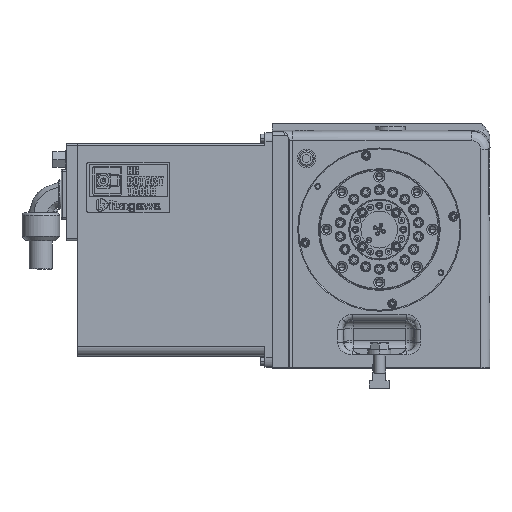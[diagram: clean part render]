
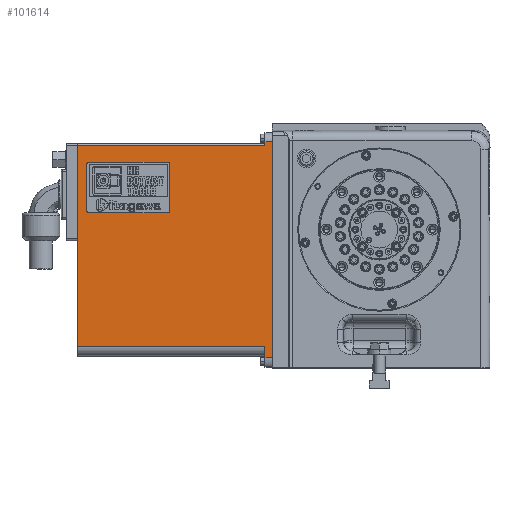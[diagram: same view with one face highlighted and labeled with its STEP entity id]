
A CAD part, top view. The second image highlights one B-rep face of the part: STEP entity #101614.
In plain terms, the highlighted planar face has unit normal (0, 0, 1).
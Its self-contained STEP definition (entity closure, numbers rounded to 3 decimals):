
#827 = ORIENTED_EDGE ( 'NONE', *, *, #33019, .F. ) ;
#987 = CARTESIAN_POINT ( 'NONE',  ( -211., 240., 0. ) ) ;
#4825 = EDGE_CURVE ( 'NONE', #74073, #89592, #15737, .T. ) ;
#5794 = VECTOR ( 'NONE', #50506, 1000. ) ;
#8503 = CARTESIAN_POINT ( 'NONE',  ( -211., 22., 0. ) ) ;
#10442 = CARTESIAN_POINT ( 'NONE',  ( -8., 244., 0. ) ) ;
#11632 = ORIENTED_EDGE ( 'NONE', *, *, #107173, .F. ) ;
#12994 = CARTESIAN_POINT ( 'NONE',  ( -8., 10., 0. ) ) ;
#14593 = DIRECTION ( 'NONE',  ( 1., 0., 0. ) ) ;
#15197 = LINE ( 'NONE', #12994, #63383 ) ;
#15737 = LINE ( 'NONE', #80601, #115213 ) ;
#19000 = EDGE_LOOP ( 'NONE', ( #76634, #827, #29322, #112589, #11632, #93312, #122166, #56543 ) ) ;
#21567 = LINE ( 'NONE', #125069, #44049 ) ;
#21747 = CARTESIAN_POINT ( 'NONE',  ( -8., 10., 0. ) ) ;
#22678 = DIRECTION ( 'NONE',  ( 0., -1., 0. ) ) ;
#25986 = CARTESIAN_POINT ( 'NONE',  ( -8., 10., 0. ) ) ;
#29322 = ORIENTED_EDGE ( 'NONE', *, *, #87586, .T. ) ;
#31382 = DIRECTION ( 'NONE',  ( 1., 0., 0. ) ) ;
#31950 = EDGE_CURVE ( 'NONE', #89174, #89947, #82612, .T. ) ;
#32094 = FACE_OUTER_BOUND ( 'NONE', #19000, .T. ) ;
#33019 = EDGE_CURVE ( 'NONE', #90645, #52987, #119968, .T. ) ;
#35801 = VECTOR ( 'NONE', #31382, 1000. ) ;
#35959 = CARTESIAN_POINT ( 'NONE',  ( -8., 240., 0. ) ) ;
#38144 = CARTESIAN_POINT ( 'NONE',  ( -211., 242., 0. ) ) ;
#40754 = CARTESIAN_POINT ( 'NONE',  ( -8., 244., 0. ) ) ;
#40791 = DIRECTION ( 'NONE',  ( 0., -1., 0. ) ) ;
#41702 = CARTESIAN_POINT ( 'NONE',  ( -8., 22., 0. ) ) ;
#44049 = VECTOR ( 'NONE', #67375, 1000. ) ;
#50506 = DIRECTION ( 'NONE',  ( 1., 0., 0. ) ) ;
#52987 = VERTEX_POINT ( 'NONE', #8503 ) ;
#54984 = DIRECTION ( 'NONE',  ( 0., 0., -1. ) ) ;
#56543 = ORIENTED_EDGE ( 'NONE', *, *, #4825, .F. ) ;
#59046 = EDGE_CURVE ( 'NONE', #72389, #123701, #64531, .T. ) ;
#63383 = VECTOR ( 'NONE', #22678, 1000. ) ;
#64531 = LINE ( 'NONE', #21747, #35801 ) ;
#67375 = DIRECTION ( 'NONE',  ( 0., -1., 0. ) ) ;
#69923 = CARTESIAN_POINT ( 'NONE',  ( 0., 10., 0. ) ) ;
#71780 = AXIS2_PLACEMENT_3D ( 'NONE', #25986, #54984, #122421 ) ;
#72389 = VERTEX_POINT ( 'NONE', #120022 ) ;
#74073 = VERTEX_POINT ( 'NONE', #987 ) ;
#75971 = VECTOR ( 'NONE', #95847, 1000. ) ;
#76634 = ORIENTED_EDGE ( 'NONE', *, *, #104357, .T. ) ;
#77782 = CARTESIAN_POINT ( 'NONE',  ( -8., 22., 0. ) ) ;
#77900 = VECTOR ( 'NONE', #40791, 1000. ) ;
#80031 = EDGE_CURVE ( 'NONE', #89174, #89592, #103498, .T. ) ;
#80601 = CARTESIAN_POINT ( 'NONE',  ( -8., 240., 0. ) ) ;
#82612 = LINE ( 'NONE', #40754, #5794 ) ;
#87586 = EDGE_CURVE ( 'NONE', #90645, #72389, #15197, .T. ) ;
#89174 = VERTEX_POINT ( 'NONE', #10442 ) ;
#89592 = VERTEX_POINT ( 'NONE', #35959 ) ;
#89947 = VERTEX_POINT ( 'NONE', #104485 ) ;
#90645 = VERTEX_POINT ( 'NONE', #77782 ) ;
#93312 = ORIENTED_EDGE ( 'NONE', *, *, #31950, .F. ) ;
#95847 = DIRECTION ( 'NONE',  ( 0., -1., 0. ) ) ;
#99404 = DIRECTION ( 'NONE',  ( -1., 0., 0. ) ) ;
#101533 = LINE ( 'NONE', #38144, #75971 ) ;
#101614 = ADVANCED_FACE ( 'NONE', ( #32094 ), #112752, .F. ) ;
#103498 = LINE ( 'NONE', #108205, #77900 ) ;
#104357 = EDGE_CURVE ( 'NONE', #74073, #52987, #101533, .T. ) ;
#104485 = CARTESIAN_POINT ( 'NONE',  ( 0., 244., 0. ) ) ;
#107173 = EDGE_CURVE ( 'NONE', #89947, #123701, #21567, .T. ) ;
#108205 = CARTESIAN_POINT ( 'NONE',  ( -8., 10., 0. ) ) ;
#112589 = ORIENTED_EDGE ( 'NONE', *, *, #59046, .T. ) ;
#112752 = PLANE ( 'NONE',  #71780 ) ;
#115213 = VECTOR ( 'NONE', #14593, 1000. ) ;
#117008 = VECTOR ( 'NONE', #99404, 1000. ) ;
#119968 = LINE ( 'NONE', #41702, #117008 ) ;
#120022 = CARTESIAN_POINT ( 'NONE',  ( -8., 10., 0. ) ) ;
#122166 = ORIENTED_EDGE ( 'NONE', *, *, #80031, .T. ) ;
#122421 = DIRECTION ( 'NONE',  ( 1., 0., 0. ) ) ;
#123701 = VERTEX_POINT ( 'NONE', #69923 ) ;
#125069 = CARTESIAN_POINT ( 'NONE',  ( 0., 10., 0. ) ) ;
